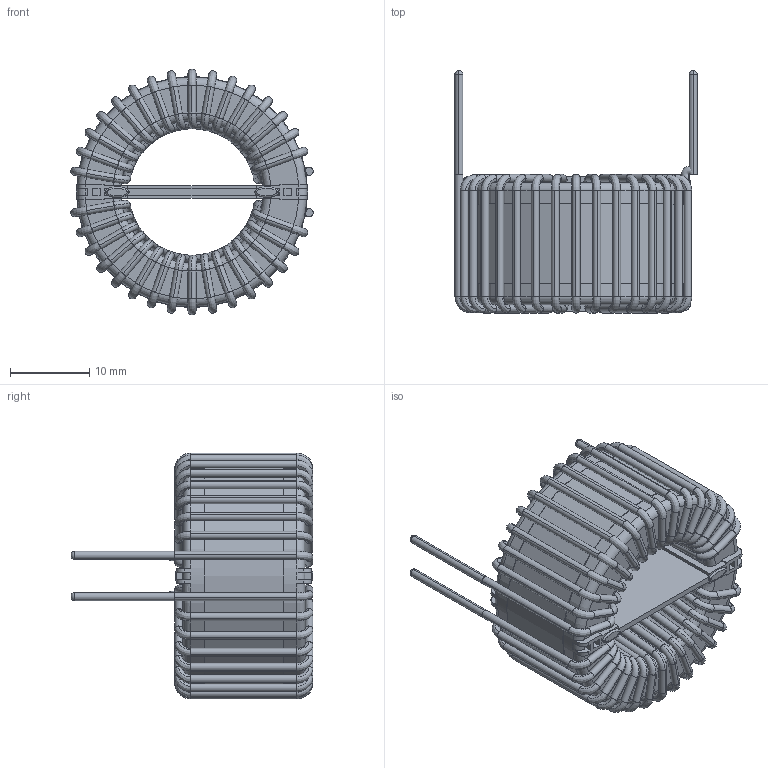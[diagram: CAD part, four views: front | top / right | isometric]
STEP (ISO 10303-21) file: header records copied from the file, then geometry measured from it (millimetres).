
FILE_DESCRIPTION (( 'STEP AP203' ), '1' );
FILE_NAME ('HN-H-163U-8A.STEP', '2020-07-09T10:18:45', ( 'Windows User' ), ( '' ), 'SwSTEP 2.0', 'SolidWorks 2015', '' );
FILE_SCHEMA (( 'CONFIG_CONTROL_DESIGN' ));
Length unit declared in the file: inch
Products named in the file (4): HN-H-163U-8A - CORE; HN-H-163U-8A - FRAME; HN-H-163U-8A; HN-H-163U-8A - COIL
Assembly tree (3 placements, depth 2):
  HN-H-163U-8A
    HN-H-163U-8A - CORE
    HN-H-163U-8A - COIL
    HN-H-163U-8A - FRAME
Bounding box: 30.57 x 30.54 x 31.02 mm (x, y, z)
Volume: 7811.2 mm3; surface area: 10537.4 mm2
Topology: 13 solids, 13 shells, 797 faces, 2299 edges, 1526 vertices
Faces by surface type: cylinder 339, torus 166, bspline 160, plane 132
Entity records: 38499 total; most frequent: CARTESIAN_POINT 17332, ORIENTED_EDGE 4590, DIRECTION 4469, EDGE_CURVE 2295, AXIS2_PLACEMENT_3D 1903, VERTEX_POINT 1526, CIRCLE 1260, EDGE_LOOP 803
